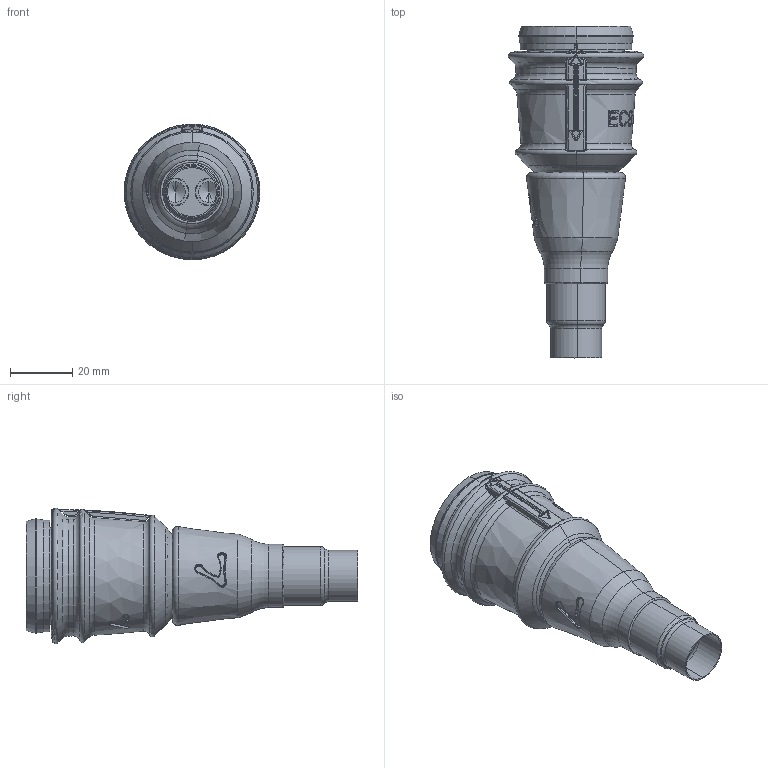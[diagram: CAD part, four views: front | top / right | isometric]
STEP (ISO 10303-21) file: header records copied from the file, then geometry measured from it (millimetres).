
FILE_DESCRIPTION((''),'2;1');
FILE_NAME('LCN-EC8X2-INLF_ASM','2025-06-27T12:44:52',('Neil'),(''),'CREO PARAMETRIC BY PTC INC, 2023134','CREO PARAMETRIC BY PTC INC, 2023134','');
FILE_SCHEMA(('AUTOMOTIVE_DESIGN { 1 0 10303 214 1 1 1 1 }'));
Length unit declared in the file: millimetre
Products named in the file (1): LCN-EC8X2-INLF_ASM
Bounding box: 43.65 x 106.81 x 43.65 mm (x, y, z)
Surface area: 22837.1 mm2 (no closed solid volume)
Topology: 0 solids, 27 shells, 190 faces, 930 edges, 750 vertices
Faces by surface type: torus 46, bspline 46, cone 42, cylinder 37, plane 19
Entity records: 16407 total; most frequent: CARTESIAN_POINT 8911, ORIENTED_EDGE 1205, DIRECTION 994, EDGE_CURVE 922, VERTEX_POINT 750, B_SPLINE_CURVE_WITH_KNOTS 516, AXIS2_PLACEMENT_3D 443, CIRCLE 298
